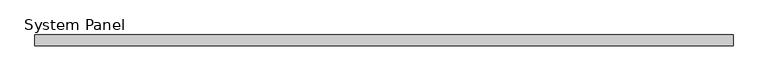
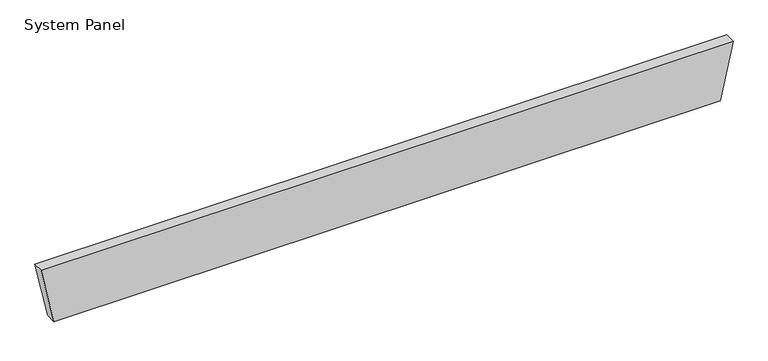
"""IFC4 building model written with IfcOpenShell, lengths in millimetres: plate geometry, System Panel : MetecnoPanel_200mm_Plain_Surfmist."""

from ifc_helpers import new_model, si_unit, frame, origin, place, context, project, spatial, polyline, outline, extrude, source, transform, mapped, element, save


def system_panel_431e03af(model_context):
    return source(origin(), model_context, "Body", "SweptSolid", [
        extrude(outline(polyline([(0.0, -6239.1323567), (0.0, 6239.1323567), (1100.0, 6478.2647134), (1100.0, -6478.2647134), (0.0, -6239.1323567)])), frame((0.0, -200.0, 0.0), z_axis=(0.0, 1.0, 0.0), x_axis=(0.0, 0.0, 1.0)), (0.0, 0.0, 1.0), 200.0),
    ])


if __name__ == "__main__":
    model = new_model("IFC4")
    model_context = context("Model", 3, world=origin())
    ifc_project = project(units=[si_unit("LENGTHUNIT", "METRE", prefix="MILLI")], contexts=[model_context])
    site = spatial("IfcSite", under=ifc_project)
    building = spatial("IfcBuilding", under=site)
    placement = place(None, origin())
    system_panel_shape = system_panel_431e03af(model_context)
    element("IfcPlate", 1, ObjectType="System Panel : MetecnoPanel_200mm_Plain_Surfmist", at=placement, inside=building, context=model_context, shape_type="MappedRepresentation", body=[
        mapped(system_panel_shape, transform((0.0, 0.0, 0.0), x_axis=(1.0, 0.0, 0.0), y_axis=(0.0, 1.0, 0.0), z_axis=(0.0, 0.0, 1.0))),
    ])
    save(model, "model.ifc")
